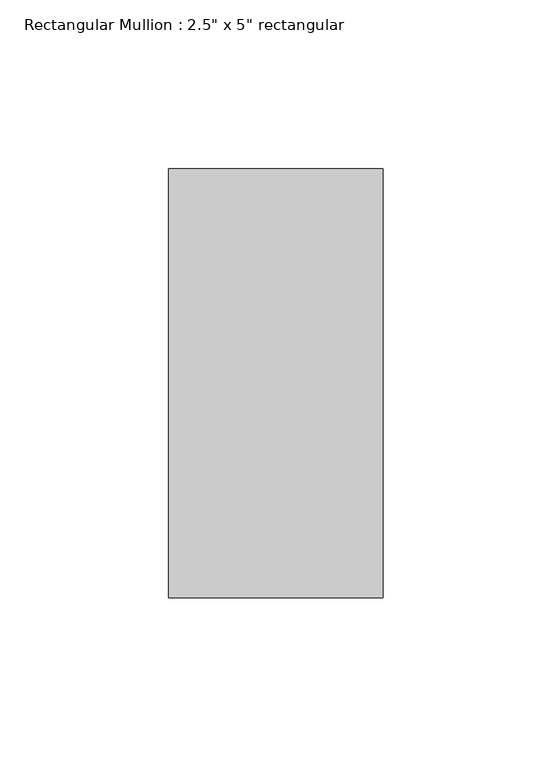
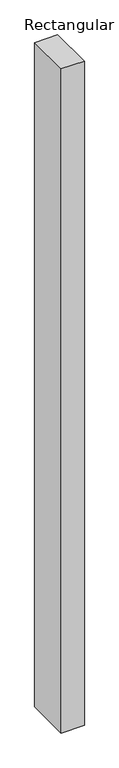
"""IFC4 building model written with IfcOpenShell, lengths in millimetres: member geometry."""

from ifc_helpers import new_model, si_unit, frame, origin, place, context, project, spatial, polyline, outline, extrude, source, transform, mapped, element, save


def member_4f18b2ac(model_context):
    return source(origin(), model_context, "Body", "SweptSolid", [
        extrude(outline(polyline([(0.0, 63.5), (0.0, -63.5), (-63.5, -63.5), (-63.5, 63.5), (0.0, 63.5)])), frame((0.0, 0.0, -1936.75), z_axis=(0.0, 0.0, 1.0), x_axis=(1.0, 0.0, 0.0)), (0.0, 0.0, 1.0), 1936.75),
    ])


if __name__ == "__main__":
    model = new_model("IFC4")
    model_context = context("Model", 3, world=origin())
    ifc_project = project(units=[si_unit("LENGTHUNIT", "METRE", prefix="MILLI")], contexts=[model_context])
    site = spatial("IfcSite", under=ifc_project)
    building = spatial("IfcBuilding", under=site)
    placement = place(None, origin())
    member_shape = member_4f18b2ac(model_context)
    element("IfcMember", 1, ObjectType="Rectangular Mullion : 2.5\" x 5\" rectangular", at=placement, inside=building, context=model_context, shape_type="MappedRepresentation", body=[
        mapped(member_shape, transform((0.0, 0.0, 0.0), x_axis=(1.0, 0.0, 0.0), y_axis=(0.0, 1.0, 0.0), z_axis=(0.0, 0.0, 1.0))),
    ])
    save(model, "model.ifc")
